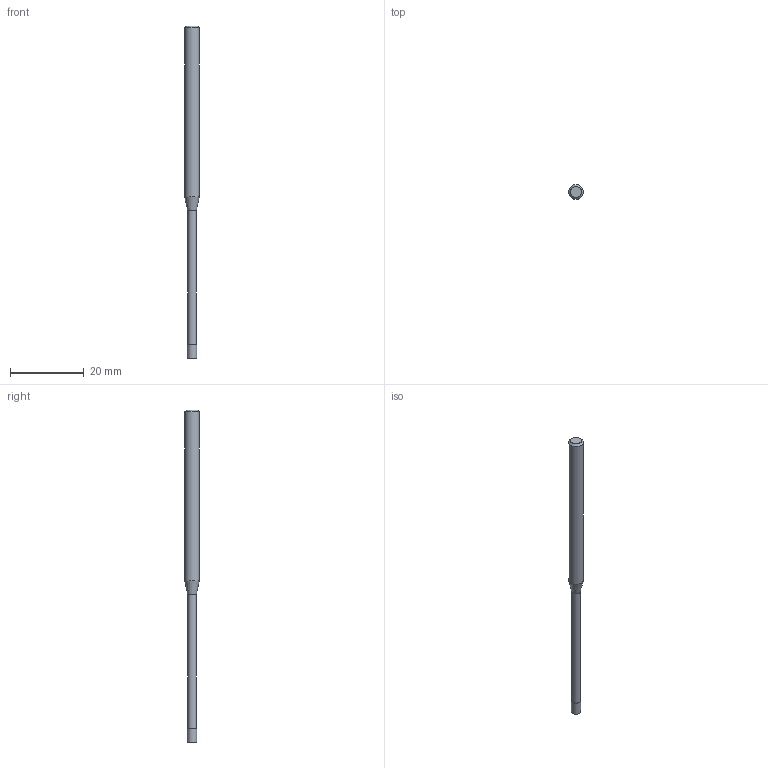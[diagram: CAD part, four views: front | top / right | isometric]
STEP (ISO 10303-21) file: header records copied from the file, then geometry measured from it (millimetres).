
FILE_DESCRIPTION((''),'2;1');
FILE_NAME('C:\Users\nsx150\AppData\Local\Temp\Mastercam 2021\17T8Q8S9EB\TEMP.step','2021-04-21T14:28:15',(''),(''),'STEP Write','Mastercam 2021 ... CNC Software, Inc.','');
FILE_SCHEMA(('AUTOMOTIVE_DESIGN'));
Length unit declared in the file: millimetre
Products named in the file (1): None
Bounding box: 4 x 4 x 90 mm (x, y, z)
Volume: 792.9 mm3; surface area: 945.4 mm2
Topology: 2 solids, 2 shells, 9 faces, 12 edges, 7 vertices
Faces by surface type: plane 4, cylinder 3, cone 2
Full cylindrical faces by diameter (mm): 2.4 x1, 2.5 x1, 4 x1
Entity records: 211 total; most frequent: DIRECTION 36, CARTESIAN_POINT 25, AXIS2_PLACEMENT_3D 18, ORIENTED_EDGE 14, EDGE_LOOP 14, STYLED_ITEM 12, ADVANCED_FACE 9, FACE_BOUND 8
